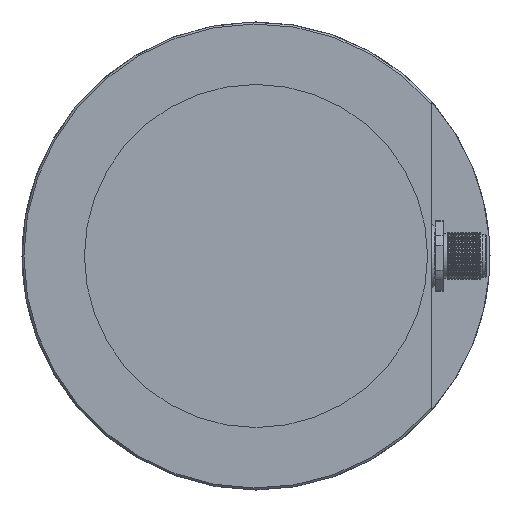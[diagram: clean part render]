
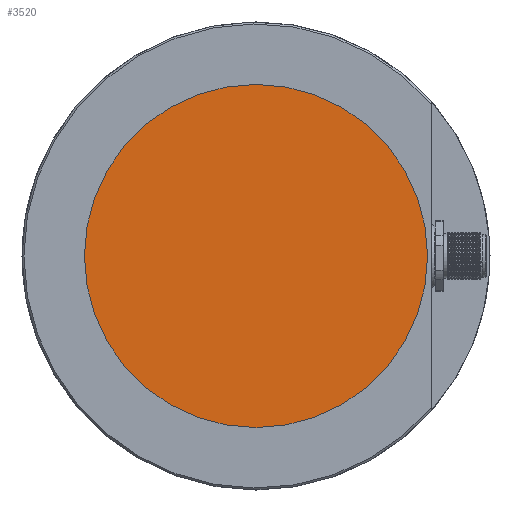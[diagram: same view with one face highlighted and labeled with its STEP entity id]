
A CAD part, left-side view. The second image highlights one B-rep face of the part: STEP entity #3520.
In plain terms, the highlighted planar face has unit normal (-1, 0, 0).
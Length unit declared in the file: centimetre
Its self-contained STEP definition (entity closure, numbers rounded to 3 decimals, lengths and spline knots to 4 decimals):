
#702=PLANE('',#3801);
#838=CIRCLE('',#3800,4.4);
#1011=EDGE_CURVE('',#2818,#2818,#838,.T.);
#1493=ORIENTED_EDGE('',*,*,#1011,.T.);
#2431=EDGE_LOOP('',(#1493));
#2818=VERTEX_POINT('',#4194);
#3148=FACE_BOUND('',#2431,.T.);
#3520=ADVANCED_FACE('',(#3148),#702,.F.);
#3800=AXIS2_PLACEMENT_3D('',#4193,#5985,#5986);
#3801=AXIS2_PLACEMENT_3D('',#4195,#5987,$);
#4193=CARTESIAN_POINT('',(-2.4,0.,0.));
#4194=CARTESIAN_POINT('',(-2.4,0.,-4.4));
#4195=CARTESIAN_POINT('',(-2.4,0.,0.));
#5985=DIRECTION('',(-1.,0.,0.));
#5986=DIRECTION('',(0.,0.,-4.4));
#5987=DIRECTION('',(1.,0.,0.));
